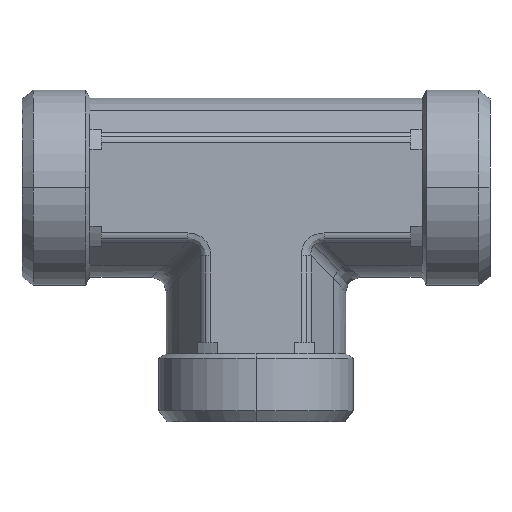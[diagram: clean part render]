
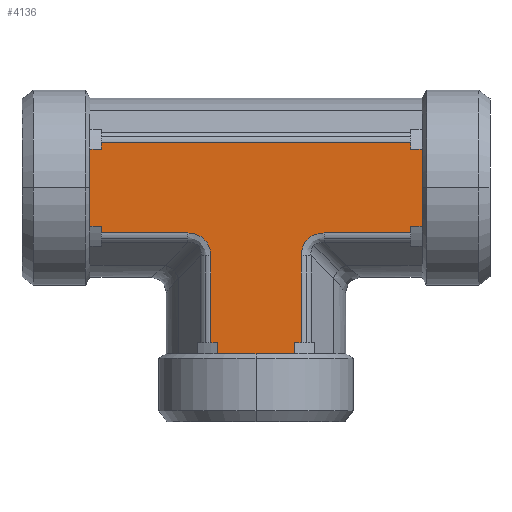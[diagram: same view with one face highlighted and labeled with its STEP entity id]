
A CAD part, left-side view. The second image highlights one B-rep face of the part: STEP entity #4136.
In plain terms, the highlighted planar face has unit normal (-1, 0, 0).
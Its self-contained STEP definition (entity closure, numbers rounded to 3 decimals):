
#668=CARTESIAN_POINT('',(-11.875,22.0,12.));
#669=VERTEX_POINT('',#668);
#769=CARTESIAN_POINT('',(-11.875,0.,-10.));
#770=VERTEX_POINT('',#769);
#843=CARTESIAN_POINT('',(-11.875,-22.0,12.));
#844=VERTEX_POINT('',#843);
#952=CARTESIAN_POINT('',(-11.875,9.021,6.01));
#953=VERTEX_POINT('',#952);
#961=CARTESIAN_POINT('',(-11.875,20.5,6.01));
#962=VERTEX_POINT('',#961);
#963=CARTESIAN_POINT('',(-11.875,9.021,6.01));
#964=DIRECTION('',(0.0,1.0,0.0));
#965=VECTOR('',#964,11.479);
#966=LINE('',#963,#965);
#967=EDGE_CURVE('',#953,#962,#966,.T.);
#1320=CARTESIAN_POINT('',(-11.875,-5.99,2.979));
#1321=VERTEX_POINT('',#1320);
#1329=CARTESIAN_POINT('',(-11.875,-5.99,-8.5));
#1330=VERTEX_POINT('',#1329);
#1331=CARTESIAN_POINT('',(-11.875,-5.99,2.979));
#1332=DIRECTION('',(0.0,0.0,-1.0));
#1333=VECTOR('',#1332,11.479);
#1334=LINE('',#1331,#1333);
#1335=EDGE_CURVE('',#1321,#1330,#1334,.T.);
#1726=CARTESIAN_POINT('',(-11.875,20.5,17.99));
#1727=VERTEX_POINT('',#1726);
#1735=CARTESIAN_POINT('',(-11.875,-20.5,17.99));
#1736=VERTEX_POINT('',#1735);
#1737=CARTESIAN_POINT('',(-11.875,20.5,17.99));
#1738=DIRECTION('',(0.0,-1.0,0.0));
#1739=VECTOR('',#1738,41.0);
#1740=LINE('',#1737,#1739);
#1741=EDGE_CURVE('',#1727,#1736,#1740,.T.);
#2183=CARTESIAN_POINT('',(-11.875,-20.5,6.897));
#2184=VERTEX_POINT('',#2183);
#2192=CARTESIAN_POINT('',(-11.875,-20.5,6.01));
#2193=VERTEX_POINT('',#2192);
#2194=CARTESIAN_POINT('',(-11.875,-20.5,6.01));
#2195=DIRECTION('',(0.0,0.0,1.0));
#2196=VECTOR('',#2195,0.887);
#2197=LINE('',#2194,#2196);
#2198=EDGE_CURVE('',#2193,#2184,#2197,.T.);
#2216=CARTESIAN_POINT('',(-11.875,-20.5,17.103));
#2217=VERTEX_POINT('',#2216);
#2218=CARTESIAN_POINT('',(-11.875,-20.5,17.103));
#2219=DIRECTION('',(0.0,0.0,1.0));
#2220=VECTOR('',#2219,0.887);
#2221=LINE('',#2218,#2220);
#2222=EDGE_CURVE('',#2217,#1736,#2221,.T.);
#2297=CARTESIAN_POINT('',(-11.875,-22.0,6.897));
#2298=VERTEX_POINT('',#2297);
#2306=CARTESIAN_POINT('',(-11.875,-20.5,6.897));
#2307=DIRECTION('',(0.0,-1.0,0.0));
#2308=VECTOR('',#2307,1.5);
#2309=LINE('',#2306,#2308);
#2310=EDGE_CURVE('',#2184,#2298,#2309,.T.);
#2371=CARTESIAN_POINT('',(-11.875,-22.0,17.103));
#2372=VERTEX_POINT('',#2371);
#2373=CARTESIAN_POINT('',(-11.875,-22.0,17.103));
#2374=DIRECTION('',(0.0,1.0,0.0));
#2375=VECTOR('',#2374,1.5);
#2376=LINE('',#2373,#2375);
#2377=EDGE_CURVE('',#2372,#2217,#2376,.T.);
#2536=CARTESIAN_POINT('',(-11.875,-9.021,6.01));
#2537=VERTEX_POINT('',#2536);
#2538=CARTESIAN_POINT('',(-11.875,-20.5,6.01));
#2539=DIRECTION('',(0.0,1.0,0.0));
#2540=VECTOR('',#2539,11.479);
#2541=LINE('',#2538,#2540);
#2542=EDGE_CURVE('',#2193,#2537,#2541,.T.);
#2718=CARTESIAN_POINT('',(-11.875,5.103,-8.5));
#2719=VERTEX_POINT('',#2718);
#2727=CARTESIAN_POINT('',(-11.875,5.99,-8.5));
#2728=VERTEX_POINT('',#2727);
#2729=CARTESIAN_POINT('',(-11.875,5.99,-8.5));
#2730=DIRECTION('',(0.0,-1.0,0.0));
#2731=VECTOR('',#2730,0.887);
#2732=LINE('',#2729,#2731);
#2733=EDGE_CURVE('',#2728,#2719,#2732,.T.);
#2751=CARTESIAN_POINT('',(-11.875,-5.103,-8.5));
#2752=VERTEX_POINT('',#2751);
#2753=CARTESIAN_POINT('',(-11.875,-5.103,-8.5));
#2754=DIRECTION('',(0.0,-1.0,0.0));
#2755=VECTOR('',#2754,0.887);
#2756=LINE('',#2753,#2755);
#2757=EDGE_CURVE('',#2752,#1330,#2756,.T.);
#2865=CARTESIAN_POINT('',(-11.875,-5.103,-10.0));
#2866=VERTEX_POINT('',#2865);
#2867=CARTESIAN_POINT('',(-11.875,-5.103,-10.0));
#2868=DIRECTION('',(0.0,0.0,1.0));
#2869=VECTOR('',#2868,1.5);
#2870=LINE('',#2867,#2869);
#2871=EDGE_CURVE('',#2866,#2752,#2870,.T.);
#2905=CARTESIAN_POINT('',(-11.875,5.103,-10.0));
#2906=VERTEX_POINT('',#2905);
#2914=CARTESIAN_POINT('',(-11.875,5.103,-8.5));
#2915=DIRECTION('',(0.0,0.0,-1.0));
#2916=VECTOR('',#2915,1.5);
#2917=LINE('',#2914,#2916);
#2918=EDGE_CURVE('',#2719,#2906,#2917,.T.);
#3150=CARTESIAN_POINT('',(-11.875,5.99,2.979));
#3151=VERTEX_POINT('',#3150);
#3152=CARTESIAN_POINT('',(-11.875,5.99,-8.5));
#3153=DIRECTION('',(0.0,0.0,1.0));
#3154=VECTOR('',#3153,11.479);
#3155=LINE('',#3152,#3154);
#3156=EDGE_CURVE('',#2728,#3151,#3155,.T.);
#3398=CARTESIAN_POINT('',(-11.875,20.5,17.103));
#3399=VERTEX_POINT('',#3398);
#3400=CARTESIAN_POINT('',(-11.875,20.5,17.99));
#3401=DIRECTION('',(0.0,0.0,-1.0));
#3402=VECTOR('',#3401,0.887);
#3403=LINE('',#3400,#3402);
#3404=EDGE_CURVE('',#1727,#3399,#3403,.T.);
#3424=CARTESIAN_POINT('',(-11.875,20.5,6.897));
#3425=VERTEX_POINT('',#3424);
#3426=CARTESIAN_POINT('',(-11.875,20.5,6.897));
#3427=DIRECTION('',(0.0,0.0,-1.0));
#3428=VECTOR('',#3427,0.887);
#3429=LINE('',#3426,#3428);
#3430=EDGE_CURVE('',#3425,#962,#3429,.T.);
#3497=CARTESIAN_POINT('',(-11.875,22.0,17.103));
#3498=VERTEX_POINT('',#3497);
#3499=CARTESIAN_POINT('',(-11.875,20.5,17.103));
#3500=DIRECTION('',(0.0,1.0,0.0));
#3501=VECTOR('',#3500,1.5);
#3502=LINE('',#3499,#3501);
#3503=EDGE_CURVE('',#3399,#3498,#3502,.T.);
#3572=CARTESIAN_POINT('',(-11.875,22.0,6.897));
#3573=VERTEX_POINT('',#3572);
#3574=CARTESIAN_POINT('',(-11.875,22.0,6.897));
#3575=DIRECTION('',(0.0,-1.0,0.0));
#3576=VECTOR('',#3575,1.5);
#3577=LINE('',#3574,#3576);
#3578=EDGE_CURVE('',#3573,#3425,#3577,.T.);
#3680=CARTESIAN_POINT('',(-11.875,22.0,17.103));
#3681=DIRECTION('',(0.0,0.0,-1.0));
#3682=VECTOR('',#3681,5.103);
#3683=LINE('',#3680,#3682);
#3684=EDGE_CURVE('',#3498,#669,#3683,.T.);
#3870=CARTESIAN_POINT('',(-11.875,-22.0,12.));
#3871=DIRECTION('',(0.0,0.0,1.0));
#3872=VECTOR('',#3871,5.103);
#3873=LINE('',#3870,#3872);
#3874=EDGE_CURVE('',#844,#2372,#3873,.T.);
#3949=CARTESIAN_POINT('',(-11.875,0.,-10.));
#3950=DIRECTION('',(0.0,-1.0,0.0));
#3951=VECTOR('',#3950,5.103);
#3952=LINE('',#3949,#3951);
#3953=EDGE_CURVE('',#770,#2866,#3952,.T.);
#3990=CARTESIAN_POINT('',(-11.875,5.103,-10.0));
#3991=DIRECTION('',(0.0,-1.0,0.0));
#3992=VECTOR('',#3991,5.103);
#3993=LINE('',#3990,#3992);
#3994=EDGE_CURVE('',#2906,#770,#3993,.T.);
#4059=CARTESIAN_POINT('',(-11.875,22.0,12.));
#4060=DIRECTION('',(0.0,0.0,-1.0));
#4061=VECTOR('',#4060,5.103);
#4062=LINE('',#4059,#4061);
#4063=EDGE_CURVE('',#669,#3573,#4062,.T.);
#4083=CARTESIAN_POINT('',(-11.875,-22.0,6.897));
#4084=DIRECTION('',(0.0,0.0,1.0));
#4085=VECTOR('',#4084,5.103);
#4086=LINE('',#4083,#4085);
#4087=EDGE_CURVE('',#2298,#844,#4086,.T.);
#4092=CARTESIAN_POINT('',(-11.875,6.856,12.0));
#4093=DIRECTION('',(-1.0,0.0,0.0));
#4094=DIRECTION('',(0.0,0.0,1.0));
#4095=AXIS2_PLACEMENT_3D('',#4092,#4093,#4094);
#4096=PLANE('',#4095);
#4097=ORIENTED_EDGE('',*,*,#2222,.T.);
#4098=ORIENTED_EDGE('',*,*,#1741,.F.);
#4099=ORIENTED_EDGE('',*,*,#3404,.T.);
#4100=ORIENTED_EDGE('',*,*,#3503,.T.);
#4101=ORIENTED_EDGE('',*,*,#3684,.T.);
#4102=ORIENTED_EDGE('',*,*,#4063,.T.);
#4103=ORIENTED_EDGE('',*,*,#3578,.T.);
#4104=ORIENTED_EDGE('',*,*,#3430,.T.);
#4105=ORIENTED_EDGE('',*,*,#967,.F.);
#4106=CARTESIAN_POINT('',(-11.875,10.031,1.969));
#4107=DIRECTION('',(-1.,0.,0.));
#4108=DIRECTION('',(0.,-0.707,0.707));
#4109=AXIS2_PLACEMENT_3D('',#4106,#4107,#4108);
#4110=ELLIPSE('',#4109,4.518,3.5);
#4111=EDGE_CURVE('',#3151,#953,#4110,.T.);
#4112=ORIENTED_EDGE('',*,*,#4111,.F.);
#4113=ORIENTED_EDGE('',*,*,#3156,.F.);
#4114=ORIENTED_EDGE('',*,*,#2733,.T.);
#4115=ORIENTED_EDGE('',*,*,#2918,.T.);
#4116=ORIENTED_EDGE('',*,*,#3994,.T.);
#4117=ORIENTED_EDGE('',*,*,#3953,.T.);
#4118=ORIENTED_EDGE('',*,*,#2871,.T.);
#4119=ORIENTED_EDGE('',*,*,#2757,.T.);
#4120=ORIENTED_EDGE('',*,*,#1335,.F.);
#4121=CARTESIAN_POINT('',(-11.875,-10.031,1.969));
#4122=DIRECTION('',(-1.,0.,0.));
#4123=DIRECTION('',(0.,0.707,0.707));
#4124=AXIS2_PLACEMENT_3D('',#4121,#4122,#4123);
#4125=ELLIPSE('',#4124,4.518,3.5);
#4126=EDGE_CURVE('',#2537,#1321,#4125,.T.);
#4127=ORIENTED_EDGE('',*,*,#4126,.F.);
#4128=ORIENTED_EDGE('',*,*,#2542,.F.);
#4129=ORIENTED_EDGE('',*,*,#2198,.T.);
#4130=ORIENTED_EDGE('',*,*,#2310,.T.);
#4131=ORIENTED_EDGE('',*,*,#4087,.T.);
#4132=ORIENTED_EDGE('',*,*,#3874,.T.);
#4133=ORIENTED_EDGE('',*,*,#2377,.T.);
#4134=EDGE_LOOP('',(#4097,#4098,#4099,#4100,#4101,#4102,#4103,#4104,#4105,#4112,#4113,#4114,#4115,#4116,#4117,#4118,#4119,#4120,#4127,#4128,#4129,#4130,#4131,#4132,#4133));
#4135=FACE_OUTER_BOUND('',#4134,.T.);
#4136=ADVANCED_FACE('',(#4135),#4096,.T.);
